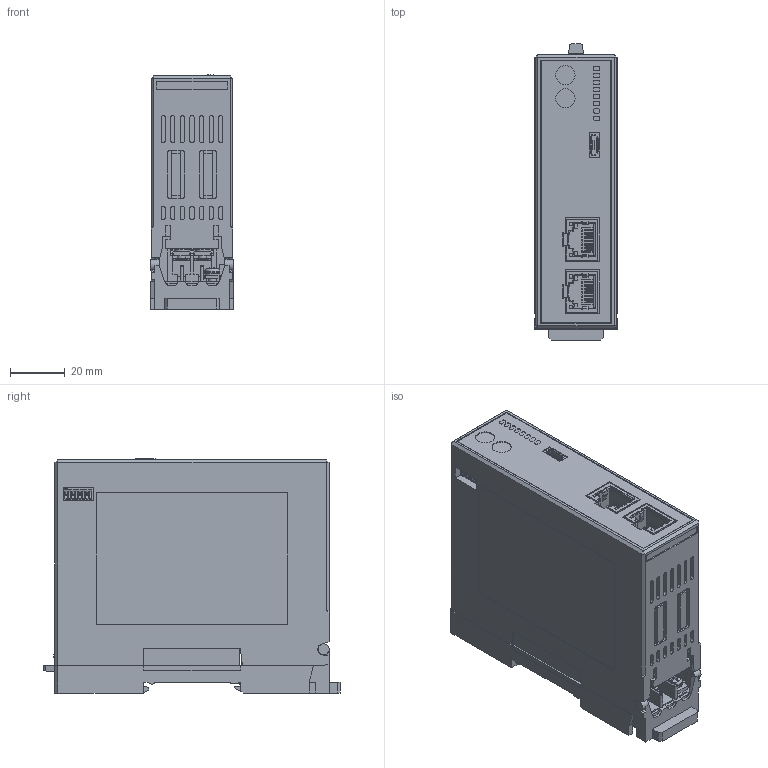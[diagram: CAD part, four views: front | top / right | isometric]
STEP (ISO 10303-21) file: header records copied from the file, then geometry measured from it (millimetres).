
FILE_DESCRIPTION (( 'STEP AP203' ), '1' );
FILE_NAME ('QMC2-M4_260721.STEP', '2026-07-21T23:54:46', ( '' ), ( '' ), 'SwSTEP 2.0', 'SolidWorks 2025', '' );
FILE_SCHEMA (( 'CONFIG_CONTROL_DESIGN' ));
Products named in the file (1): QMC2-M4_260721
Bounding box: 30 x 108 x 85.45 mm (x, y, z)
Volume: 229253.6 mm3; surface area: 40322.3 mm2
Topology: 1 solids, 1 shells, 2071 faces, 5595 edges, 3658 vertices
Faces by surface type: plane 1564, cylinder 432, bspline 53, torus 12, sphere 6, cone 4
Entity records: 67568 total; most frequent: CARTESIAN_POINT 15628, ORIENTED_EDGE 11190, DIRECTION 10124, EDGE_CURVE 5595, VECTOR 4470, LINE 4470, VERTEX_POINT 3658, AXIS2_PLACEMENT_3D 2827
